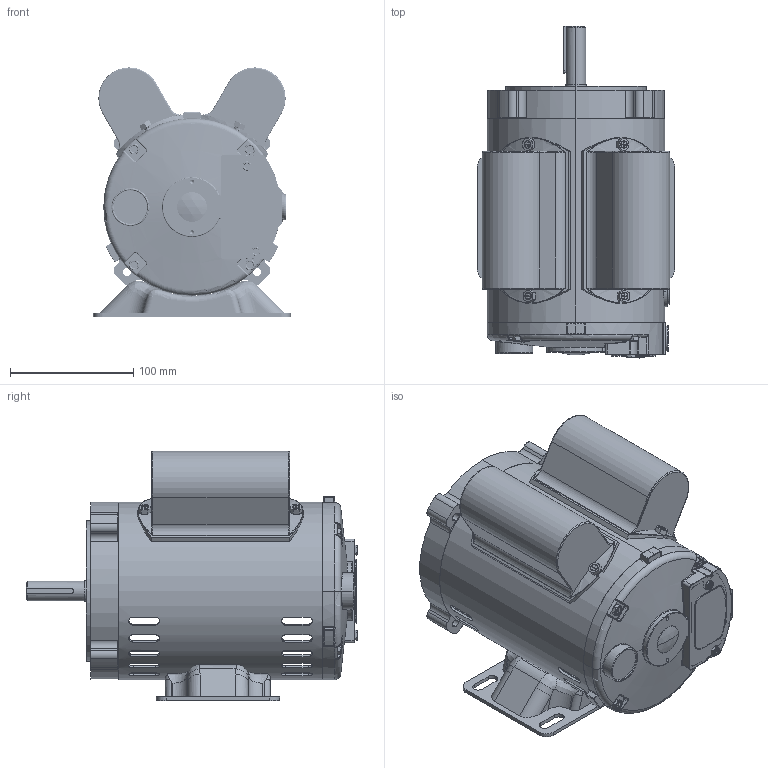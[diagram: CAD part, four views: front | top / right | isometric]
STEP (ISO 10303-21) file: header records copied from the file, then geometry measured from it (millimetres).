
FILE_DESCRIPTION (( 'STEP AP203' ), '1' );
FILE_NAME ('OPE 0.3-36-56CB.STEP', '2025-03-04T07:04:08', ( 'User' ), ( 'China' ), 'SwSTEP 2.0', 'SolidWorks 2019', '' );
FILE_SCHEMA (( 'CONFIG_CONTROL_DESIGN' ));
Length unit declared in the file: millimetre
Products named in the file (3): OPE 0.3-36-56; x; OPE 0.3-36-56CB
Assembly tree (2 placements, depth 2):
  OPE 0.3-36-56CB
    OPE 0.3-36-56
    x
Bounding box: 160 x 269.35 x 202.21 mm (x, y, z)
Volume: 638035.5 mm3; surface area: 495274.8 mm2
Topology: 30 solids, 32 shells, 2594 faces, 6780 edges, 4256 vertices
Faces by surface type: cylinder 1216, plane 667, bspline 303, torus 279, cone 104, sphere 25
Entity records: 119342 total; most frequent: CARTESIAN_POINT 59256, ORIENTED_EDGE 13408, DIRECTION 11301, EDGE_CURVE 6704, AXIS2_PLACEMENT_3D 4355, VERTEX_POINT 4252, EDGE_LOOP 2782, FACE_OUTER_BOUND 2594
